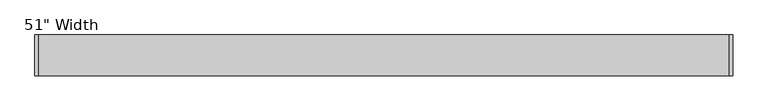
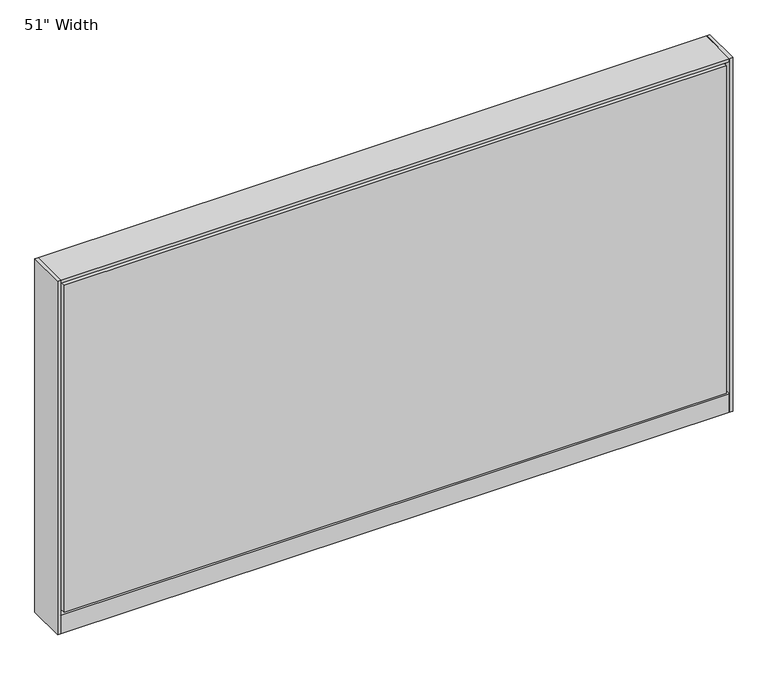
"""IFC4 building model written with IfcOpenShell, lengths in millimetres: furniture geometry."""

from ifc_helpers import new_model, si_unit, point, frame, frame_2d, origin, origin_with_axes, place, context, project, spatial, polyline, circle_curve, trimmed, segment, composite_curve, outline, extrude, source, transform, mapped, element, save


def furniture_e6a05165(model_context):
    return source(origin(), model_context, "Body", "SweptSolid", [
        extrude(outline(composite_curve([segment(trimmed(circle_curve(frame_2d((573.9402902, 0.0)), 12.7), [point((561.2402902, 0.0))], [point((586.6402902, 0.0))], False, "CARTESIAN"), True, "CONTINUOUS"), segment(trimmed(circle_curve(frame_2d((573.9402902, 0.0)), 12.7), [point((586.6402902, 0.0))], [point((561.2402902, 0.0))], False, "CARTESIAN"), True, "CONTINUOUS")], self_intersect=False)), origin_with_axes(), (0.0, 0.0, 1.0), 12.7),
        extrude(outline(composite_curve([segment(trimmed(circle_curve(frame_2d((-569.0597098, 0.0)), 12.7), [point((-581.7597098, 0.0))], [point((-556.3597098, 0.0))], False, "CARTESIAN"), True, "CONTINUOUS"), segment(trimmed(circle_curve(frame_2d((-569.0597098, 0.0)), 12.7), [point((-556.3597098, 0.0))], [point((-581.7597098, 0.0))], False, "CARTESIAN"), True, "CONTINUOUS")], self_intersect=False)), origin_with_axes(), (0.0, 0.0, 1.0), 12.7),
        extrude(outline(polyline([(-651.6097098, -38.1), (-651.6097098, 38.1), (-645.2597098, 38.1), (-645.2597098, -38.1), (-651.6097098, -38.1)])), frame((0.0, 0.0, 12.7), z_axis=(0.0, 0.0, 1.0), x_axis=(1.0, 0.0, 0.0)), (0.0, 0.0, 1.0), 723.9),
        extrude(outline(polyline([(656.4902902, 38.1), (656.4902902, -38.1), (650.1402902, -38.1), (650.1402902, 38.1), (656.4902902, 38.1)])), frame((0.0, 0.0, 12.7), z_axis=(0.0, 0.0, 1.0), x_axis=(1.0, 0.0, 0.0)), (0.0, 0.0, 1.0), 723.9),
        extrude(outline(polyline([(643.7902902, 38.1), (643.7902902, 25.4), (-638.9097098, 25.4), (-638.9097098, 38.1), (643.7902902, 38.1)])), frame((0.0, 0.0, 53.975), z_axis=(0.0, 0.0, 1.0), x_axis=(1.0, 0.0, 0.0)), (0.0, 0.0, 1.0), 669.925),
        extrude(outline(polyline([(643.7902902, -38.1), (-638.9097098, -38.1), (-638.9097098, -25.4), (643.7902902, -25.4), (643.7902902, -38.1)])), frame((0.0, 0.0, 53.975), z_axis=(0.0, 0.0, 1.0), x_axis=(1.0, 0.0, 0.0)), (0.0, 0.0, 1.0), 669.925),
        extrude(outline(polyline([(650.1402902, 25.4), (650.1402902, -25.4), (-645.2597098, -25.4), (-645.2597098, 25.4), (650.1402902, 25.4)])), frame((0.0, 0.0, 12.7), z_axis=(0.0, 0.0, 1.0), x_axis=(1.0, 0.0, 0.0)), (0.0, 0.0, 1.0), 717.55),
        extrude(outline(polyline([(-645.2597098, -38.1), (-645.2597098, 38.1), (650.1402902, 38.1), (650.1402902, -38.1), (-645.2597098, -38.1)])), frame((0.0, 0.0, 12.7), z_axis=(0.0, 0.0, 1.0), x_axis=(1.0, 0.0, 0.0)), (0.0, 0.0, 1.0), 38.1),
        extrude(outline(polyline([(-645.2597098, -38.1), (-645.2597098, 38.1), (650.1402902, 38.1), (650.1402902, -38.1), (-645.2597098, -38.1)])), frame((0.0, 0.0, 730.25), z_axis=(0.0, 0.0, 1.0), x_axis=(1.0, 0.0, 0.0)), (0.0, 0.0, 1.0), 6.35),
    ])


if __name__ == "__main__":
    model = new_model("IFC4")
    model_context = context("Model", 3, world=origin())
    ifc_project = project(units=[si_unit("LENGTHUNIT", "METRE", prefix="MILLI")], contexts=[model_context])
    site = spatial("IfcSite", under=ifc_project)
    building = spatial("IfcBuilding", under=site)
    placement = place(None, origin())
    furniture_shape = furniture_e6a05165(model_context)
    element("IfcFurniture", 1, ObjectType="Haworth_Compose-Panel-Benching : 51\" Width", at=placement, inside=building, context=model_context, shape_type="MappedRepresentation", body=[
        mapped(furniture_shape, transform((0.0, 0.0, 0.0), x_axis=(1.0, 0.0, 0.0), y_axis=(0.0, 1.0, 0.0), z_axis=(0.0, 0.0, 1.0))),
    ])
    save(model, "model.ifc")
